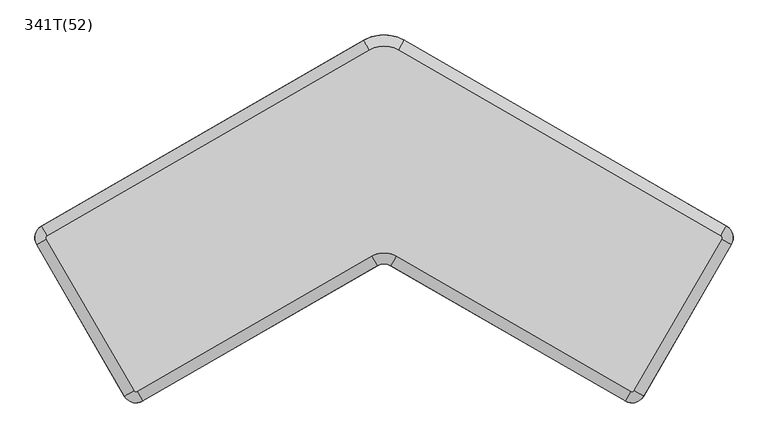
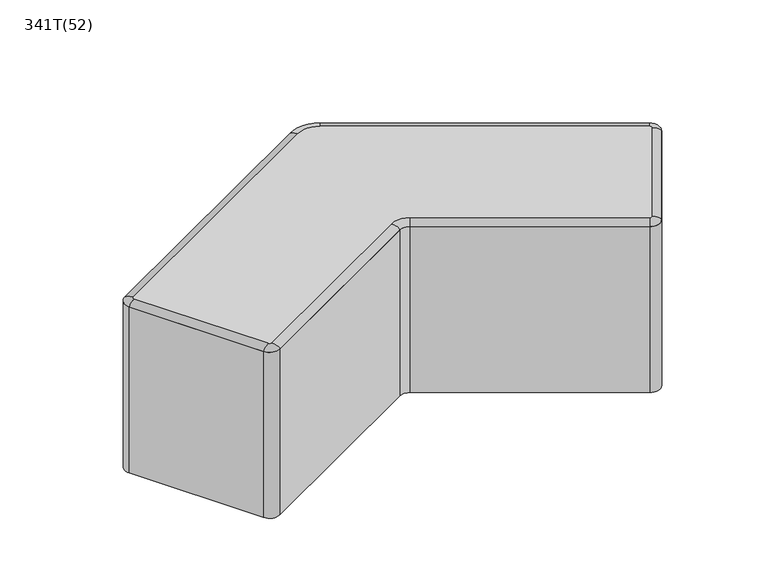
"""IFC4 building model written with IfcOpenShell, lengths in millimetres: furniture geometry, Bit Twist : 341T(52)."""

from ifc_helpers import new_model, si_unit, point, frame, frame_2d, origin, origin_with_axes, place, context, project, spatial, polyline, circle_curve, ellipse_curve, trimmed, segment, composite_curve, outline, extrude, source, transform, mapped, element, save
from ifc_brep_helpers import plane_surface, revolved_surface, extruded_surface, advanced_brep


def furniture_341t_52_3980b9fb(model_context):
    return source(origin(), model_context, "Body", "SolidModel", [
        advanced_brep(
        [(751.2658774, -13.4807621, 520.0), (749.4359482, -6.6507494, 520.0), (32.5025725, 407.3146157, 520.0), (-32.5036954, 407.3139674, 520.0), (-749.4030097, -6.6507993, 520.0), (-751.2330358, -13.4804445, 520.0), (-556.2660606, -351.230352, 520.0), (-549.4357503, -353.0607966, 520.0), (-27.5, -51.7210506, 520.0), (27.5, -51.7210506, 520.0), (549.4357503, -353.0607966, 520.0), (556.2658774, -351.2306696, 520.0), (772.9165125, -25.9807621, 510.0), (761.9369377, 14.9993145, 510.0), (45.003562, 428.9646795, 510.0), (-45.0051168, 428.9637819, 510.0), (-761.904431, 14.9990151, 510.0), (-772.8845875, -25.9788567, 510.0), (-577.9176124, -363.7287641, 510.0), (-536.9357503, -374.7114317, 510.0), (-15.0, -73.3716857, 510.0), (15.0, -73.3716857, 510.0), (536.9357503, -374.7114317, 510.0), (577.9165125, -363.7306696, 510.0)],
        [
            (0, 1, circle_curve(frame((746.9357503, -10.9807621, 520.0), z_axis=(0.0, 0.0, 1.0), x_axis=(0.8660254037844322, -0.5000000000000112, 0.0)), 5.0)),
            (1, 2),
            (2, 3, circle_curve(frame((0.0, 351.0244499, 520.0), z_axis=(0.0, 0.0, 1.0), x_axis=(0.5000395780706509, 0.8660025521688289, 0.0)), 65.0)),
            (3, 4),
            (4, 5, circle_curve(frame((-746.9027254, -10.9807621, 520.0), z_axis=(0.0, 0.0, 1.0), x_axis=(-0.5000568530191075, 0.865992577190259, 0.0)), 5.0)),
            (5, 6),
            (6, 7, circle_curve(frame((-551.9357503, -348.7306696, 520.0), z_axis=(0.0, 0.0, 1.0), x_axis=(-0.8660620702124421, -0.49993648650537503, 0.0)), 5.0)),
            (7, 8),
            (8, 9, circle_curve(frame((0.0, -99.3524479, 520.0), z_axis=(0.0, 0.0, -1.0), x_axis=(-0.5000000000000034, 0.8660254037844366, 0.0)), 55.0)),
            (9, 10),
            (10, 11, circle_curve(frame((551.9357503, -348.7306696, 520.0), z_axis=(0.0, 0.0, 1.0), x_axis=(-0.5000000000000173, -0.8660254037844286, 0.0)), 5.0)),
            (11, 0),
            (0, 12, ellipse_curve(frame((751.2658774, -13.4807621, 510.0), z_axis=(0.5000000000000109, 0.8660254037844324, 0.0), x_axis=(0.8660254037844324, -0.5000000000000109, 0.0)), 25.0, 10.0)),
            (12, 13, circle_curve(frame((746.9357503, -10.9807621, 510.0), z_axis=(0.0, 0.0, 1.0), x_axis=(0.8660254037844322, -0.5000000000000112, 0.0)), 30.0)),
            (13, 1, ellipse_curve(frame((749.4359482, -6.6507494, 510.0), z_axis=(0.8660025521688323, -0.5000395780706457, 0.0), x_axis=(0.5000395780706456, 0.866002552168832, 0.0)), 25.0, 10.0)),
            (13, 14),
            (14, 2, ellipse_curve(frame((32.5025726, 407.3146158, 510.0), z_axis=(0.8660025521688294, -0.5000395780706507, 0.0), x_axis=(0.5000395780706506, 0.8660025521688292, 0.0)), 25.0, 10.0)),
            (14, 15, circle_curve(frame((0.0, 351.0244499, 510.0), z_axis=(0.0, 0.0, 1.0), x_axis=(0.5000395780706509, 0.8660025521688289, 0.0)), 90.0)),
            (15, 3, ellipse_curve(frame((-32.5036954, 407.3139674, 510.0), z_axis=(0.8659925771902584, 0.5000568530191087, 0.0), x_axis=(-0.5000568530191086, 0.8659925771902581, 0.0)), 25.0, 10.0)),
            (15, 16),
            (16, 4, ellipse_curve(frame((-749.4030097, -6.6507992, 510.0), z_axis=(0.8659925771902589, 0.5000568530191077, 0.0), x_axis=(-0.5000568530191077, 0.8659925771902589, 0.0)), 25.0, 10.0)),
            (16, 17, circle_curve(frame((-746.9027254, -10.9807621, 510.0), z_axis=(0.0, 0.0, 1.0), x_axis=(-0.5000568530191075, 0.865992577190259, 0.0)), 30.0)),
            (17, 5, ellipse_curve(frame((-751.2330358, -13.4804445, 510.0), z_axis=(-0.4999364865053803, 0.8660620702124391, 0.0), x_axis=(-0.8660620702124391, -0.4999364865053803, 0.0)), 25.0, 10.0)),
            (17, 18),
            (18, 6, ellipse_curve(frame((-556.2660607, -351.230352, 510.0), z_axis=(-0.49993648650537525, 0.866062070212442, 0.0), x_axis=(-0.866062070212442, -0.49993648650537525, 0.0)), 25.0, 10.0)),
            (18, 19, circle_curve(frame((-551.9357503, -348.7306696, 510.0), z_axis=(0.0, 0.0, 1.0), x_axis=(-0.8660620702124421, -0.49993648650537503, 0.0)), 30.0)),
            (19, 7, ellipse_curve(frame((-549.4357503, -353.0607966, 510.0), z_axis=(-0.8660254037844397, -0.49999999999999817, 0.0), x_axis=(0.49999999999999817, -0.8660254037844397, 0.0)), 25.0, 10.0)),
            (19, 20),
            (20, 8, ellipse_curve(frame((-27.5, -51.7210506, 510.0), z_axis=(-0.8660254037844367, -0.5000000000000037, 0.0), x_axis=(0.5000000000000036, -0.8660254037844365, 0.0)), 25.0, 10.0)),
            (20, 21, circle_curve(frame((0.0, -99.3524479, 510.0), z_axis=(0.0, 0.0, -1.0), x_axis=(-0.5000000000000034, 0.8660254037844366, 0.0)), 30.0)),
            (21, 9, ellipse_curve(frame((27.5, -51.7210506, 510.0), z_axis=(-0.8660254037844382, 0.5000000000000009, 0.0), x_axis=(-0.5000000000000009, -0.8660254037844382, 0.0)), 25.0, 10.0)),
            (21, 22),
            (22, 10, ellipse_curve(frame((549.4357503, -353.0607966, 510.0), z_axis=(-0.8660254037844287, 0.5000000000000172, 0.0), x_axis=(-0.5000000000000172, -0.8660254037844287, 0.0)), 25.0, 10.0)),
            (22, 23, circle_curve(frame((551.9357503, -348.7306696, 510.0), z_axis=(0.0, 0.0, 1.0), x_axis=(-0.5000000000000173, -0.8660254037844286, 0.0)), 30.0)),
            (23, 11, ellipse_curve(frame((556.2658774, -351.2306696, 510.0), z_axis=(-0.5000000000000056, -0.8660254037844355, 0.0), x_axis=(0.8660254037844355, -0.5000000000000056, 0.0)), 25.0, 10.0)),
            (12, 23),
        ],
        [
            plane_surface(frame((32.5025726, 407.3146158, 520.0), z_axis=(0.0, 0.0, 1.0), x_axis=(-0.8660025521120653, 0.500039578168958, 0.0))),
            revolved_surface(trimmed(ellipse_curve(frame((751.2658774, -13.4807621, 510.0), z_axis=(-0.5000000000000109, -0.8660254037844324, 0.0), x_axis=(0.8660254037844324, -0.5000000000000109, 0.0)), 25.0, 10.0), [point((772.9165125, -25.9807621, 510.0))], [point((751.2658774, -13.4807621, 520.0))], True, "CARTESIAN"), (746.9357503, -10.9807621, 510.0), (0.0, 0.0, 1.0)),
            extruded_surface(trimmed(ellipse_curve(frame((32.5025725, 407.3146157, 510.0), z_axis=(0.8660025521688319, -0.500039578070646, 0.0), x_axis=(0.500039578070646, 0.8660025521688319, 0.0)), 25.0, 10.0), [point((45.003562, 428.9646795, 510.0))], [point((32.5025725, 407.3146157, 520.0))], True, "CARTESIAN"), (716.9333756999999, -413.9653651, 0.0), 827.8651995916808),
            revolved_surface(trimmed(ellipse_curve(frame((32.5025726, 407.3146158, 510.0), z_axis=(0.8660025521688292, -0.5000395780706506, 0.0), x_axis=(0.5000395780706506, 0.8660025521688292, 0.0)), 25.0, 10.0), [point((45.003562, 428.9646796, 510.0))], [point((32.5025726, 407.3146158, 520.0))], True, "CARTESIAN"), (0.0, 351.0244499, 510.0), (0.0, 0.0, 1.0)),
            extruded_surface(trimmed(ellipse_curve(frame((-749.4030097, -6.6507993, 510.0), z_axis=(0.8659925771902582, 0.5000568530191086, 0.0), x_axis=(-0.5000568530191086, 0.8659925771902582, 0.0)), 25.0, 10.0), [point((-761.904431, 14.9990151, 510.0))], [point((-749.4030097, -6.6507993, 520.0))], True, "CARTESIAN"), (716.8993144, 413.9647666, 0.0), 827.8354033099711),
            revolved_surface(trimmed(ellipse_curve(frame((-749.4030097, -6.6507992, 510.0), z_axis=(0.8659925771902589, 0.5000568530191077, 0.0), x_axis=(-0.5000568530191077, 0.8659925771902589, 0.0)), 25.0, 10.0), [point((-761.904431, 14.9990152, 510.0))], [point((-749.4030097, -6.6507992, 520.0))], True, "CARTESIAN"), (-746.9027254, -10.9807621, 510.0), (0.0, 0.0, 1.0)),
            extruded_surface(trimmed(ellipse_curve(frame((-556.2660606, -351.230352, 510.0), z_axis=(-0.49993648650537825, 0.8660620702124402, 0.0), x_axis=(-0.8660620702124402, -0.49993648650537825, 0.0)), 25.0, 10.0), [point((-577.9176124, -363.7287641, 510.0))], [point((-556.2660606, -351.230352, 520.0))], True, "CARTESIAN"), (-194.9669751, 337.7499075, 0.0), 389.9834886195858),
            revolved_surface(trimmed(ellipse_curve(frame((-556.2660607, -351.230352, 510.0), z_axis=(-0.49993648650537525, 0.866062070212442, 0.0), x_axis=(-0.866062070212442, -0.49993648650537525, 0.0)), 25.0, 10.0), [point((-577.9176125, -363.7287642, 510.0))], [point((-556.2660607, -351.230352, 520.0))], True, "CARTESIAN"), (-551.9357503, -348.7306696, 510.0), (0.0, 0.0, 1.0)),
            extruded_surface(trimmed(ellipse_curve(frame((-27.5, -51.7210506, 510.0), z_axis=(-0.8660254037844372, -0.5000000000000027, 0.0), x_axis=(0.5000000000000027, -0.8660254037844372, 0.0)), 25.0, 10.0), [point((-15.0, -73.3716857, 510.0))], [point((-27.5, -51.7210506, 520.0))], True, "CARTESIAN"), (-521.9357503, -301.339746, 0.0), 602.6794919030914),
            revolved_surface(trimmed(ellipse_curve(frame((-27.5, -51.7210506, 510.0), z_axis=(-0.8660254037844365, -0.5000000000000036, 0.0), x_axis=(0.5000000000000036, -0.8660254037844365, 0.0)), 25.0, 10.0), [point((-15.0, -73.3716857, 510.0))], [point((-27.5, -51.7210506, 520.0))], True, "CARTESIAN"), (0.0, -99.3524479, 510.0), (0.0, 0.0, -1.0)),
            extruded_surface(trimmed(ellipse_curve(frame((549.4357503, -353.0607966, 510.0), z_axis=(-0.8660254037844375, 0.5000000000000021, 0.0), x_axis=(-0.5000000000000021, -0.8660254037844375, 0.0)), 25.0, 10.0), [point((536.9357503, -374.7114317, 510.0))], [point((549.4357503, -353.0607966, 520.0))], True, "CARTESIAN"), (-521.9357503, 301.339746, 0.0), 602.6794919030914),
            revolved_surface(trimmed(ellipse_curve(frame((549.4357503, -353.0607966, 510.0), z_axis=(-0.8660254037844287, 0.5000000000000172, 0.0), x_axis=(-0.5000000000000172, -0.8660254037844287, 0.0)), 25.0, 10.0), [point((536.9357503, -374.7114317, 510.0))], [point((549.4357503, -353.0607966, 520.0))], True, "CARTESIAN"), (551.9357503, -348.7306696, 510.0), (0.0, 0.0, 1.0)),
            plane_surface(frame((556.2658774, -351.2306696, 510.0), z_axis=(0.0, 0.0, -1.0), x_axis=(0.5000000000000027, 0.8660254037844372, 0.0))),
            extruded_surface(trimmed(ellipse_curve(frame((751.2658774, -13.4807621, 510.0), z_axis=(-0.5000000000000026, -0.8660254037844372, 0.0), x_axis=(0.8660254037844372, -0.5000000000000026, 0.0)), 25.0, 10.0), [point((772.9165125, -25.9807621, 510.0))], [point((751.2658774, -13.4807621, 520.0))], True, "CARTESIAN"), (-195.0, -337.7499075, 0.0), 390.0000000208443),
        ],
        [
            (0, [[1, 2, 3, 4, 5, 6, 7, 8, 9, 10, 11, 12]]),
            (1, [[13, 14, 15, -1]]),
            (2, [[-15, 16, 17, -2]]),
            (3, [[-17, 18, 19, -3]]),
            (4, [[-19, 20, 21, -4]]),
            (5, [[-21, 22, 23, -5]]),
            (6, [[-23, 24, 25, -6]]),
            (7, [[-25, 26, 27, -7]]),
            (8, [[-27, 28, 29, -8]]),
            (9, [[-29, 30, 31, -9]]),
            (10, [[-31, 32, 33, -10]]),
            (11, [[-33, 34, 35, -11]]),
            (12, [[-14, 36, -34, -32, -30, -28, -26, -24, -22, -20, -18, -16]]),
            (13, [[-13, -12, -35, -36]]),
        ],
    ),
        extrude(outline(composite_curve([segment(polyline([(-761.9027254, 15.0), (-45.0, 428.9667363)]), True, "CONTINUOUS"), segment(trimmed(circle_curve(frame_2d((0.0, 351.0244499)), 90.0), [point((-45.0, 428.9667363))], [point((45.0, 428.9667363))], False, "CARTESIAN"), True, "CONTINUOUS"), segment(polyline([(45.0, 428.9667363), (761.9357503, 15.0)]), True, "CONTINUOUS"), segment(trimmed(circle_curve(frame_2d((746.9357503, -10.9807621)), 30.0), [point((761.9357503, 15.0))], [point((772.9165125, -25.9807621))], False, "CARTESIAN"), True, "CONTINUOUS"), segment(polyline([(772.9165125, -25.9807621), (577.9165125, -363.7306696)]), True, "CONTINUOUS"), segment(trimmed(circle_curve(frame_2d((551.9357503, -348.7306696)), 30.0), [point((577.9165125, -363.7306696))], [point((536.9357503, -374.7114317))], False, "CARTESIAN"), True, "CONTINUOUS"), segment(polyline([(536.9357503, -374.7114317), (15.0, -73.3716857)]), True, "CONTINUOUS"), segment(trimmed(circle_curve(frame_2d((0.0, -99.3524479)), 30.0), [point((15.0, -73.3716857))], [point((-15.0, -73.3716857))], True, "CARTESIAN"), True, "CONTINUOUS"), segment(polyline([(-15.0, -73.3716857), (-536.9357503, -374.7114317)]), True, "CONTINUOUS"), segment(trimmed(circle_curve(frame_2d((-551.9357503, -348.7306696)), 30.0), [point((-536.9357503, -374.7114317))], [point((-577.9165125, -363.7306696))], False, "CARTESIAN"), True, "CONTINUOUS"), segment(polyline([(-577.9165125, -363.7306696), (-772.8834875, -25.9807621)]), True, "CONTINUOUS"), segment(trimmed(circle_curve(frame_2d((-746.9027254, -10.9807621)), 30.0), [point((-772.8834875, -25.9807621))], [point((-761.9027254, 15.0))], False, "CARTESIAN"), True, "CONTINUOUS")], self_intersect=False)), origin_with_axes(), (0.0, 0.0, 1.0), 510.0),
    ])


if __name__ == "__main__":
    model = new_model("IFC4")
    model_context = context("Model", 3, world=origin())
    ifc_project = project(units=[si_unit("LENGTHUNIT", "METRE", prefix="MILLI")], contexts=[model_context])
    site = spatial("IfcSite", under=ifc_project)
    building = spatial("IfcBuilding", under=site)
    placement = place(None, origin())
    furniture_341t_52_shape = furniture_341t_52_3980b9fb(model_context)
    element("IfcFurniture", 1, ObjectType="Bit Twist : 341T(52)", at=placement, inside=building, context=model_context, shape_type="MappedRepresentation", body=[
        mapped(furniture_341t_52_shape, transform((0.0, 0.0, 0.0), x_axis=(1.0, 0.0, 0.0), y_axis=(0.0, 1.0, 0.0), z_axis=(0.0, 0.0, 1.0))),
    ])
    save(model, "model.ifc")
